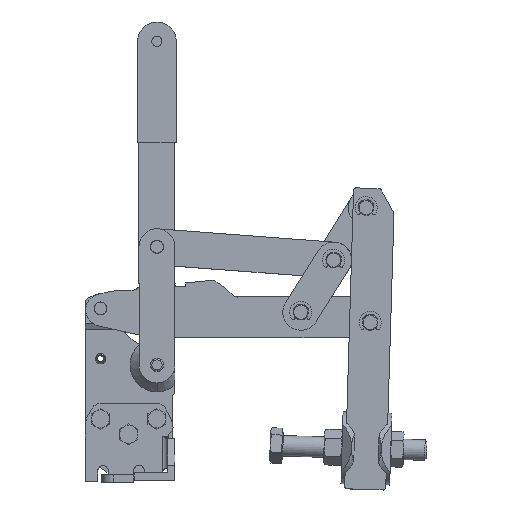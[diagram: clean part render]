
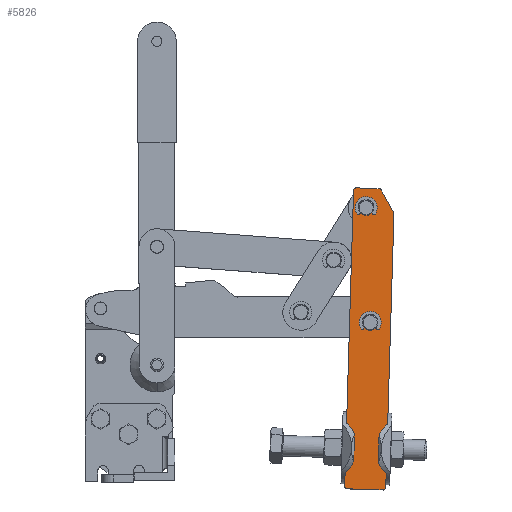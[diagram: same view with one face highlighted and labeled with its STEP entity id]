
A CAD part, top view. The second image highlights one B-rep face of the part: STEP entity #5826.
In plain terms, the highlighted planar face has unit normal (0, 0, 1).
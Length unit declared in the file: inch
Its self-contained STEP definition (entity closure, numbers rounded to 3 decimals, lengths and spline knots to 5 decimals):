
#5390=CARTESIAN_POINT('',(0.2875,0.318,0.199));
#5391=VERTEX_POINT('',#5390);
#5407=CARTESIAN_POINT('',(0.6625,0.318,0.199));
#5408=VERTEX_POINT('',#5407);
#5415=CARTESIAN_POINT('',(0.475,0.318,0.199));
#5416=DIRECTION('',(0.0,0.0,-1.0));
#5417=DIRECTION('',(-1.0,0.0,0.0));
#5418=AXIS2_PLACEMENT_3D('',#5415,#5416,#5417);
#5419=CIRCLE('',#5418,0.1875);
#5420=EDGE_CURVE('',#5391,#5408,#5419,.T.);
#5432=CARTESIAN_POINT('',(3.0775,0.5,0.199));
#5433=VERTEX_POINT('',#5432);
#5449=CARTESIAN_POINT('',(3.4525,0.5,0.199));
#5450=VERTEX_POINT('',#5449);
#5457=CARTESIAN_POINT('',(3.265,0.5,0.199));
#5458=DIRECTION('',(0.0,0.0,-1.0));
#5459=DIRECTION('',(-1.0,0.0,0.0));
#5460=AXIS2_PLACEMENT_3D('',#5457,#5458,#5459);
#5461=CIRCLE('',#5460,0.1875);
#5462=EDGE_CURVE('',#5433,#5450,#5461,.T.);
#5474=CARTESIAN_POINT('',(0.5964,0.99785,0.199));
#5475=VERTEX_POINT('',#5474);
#5491=CARTESIAN_POINT('',(0.58121,0.99156,0.199));
#5492=VERTEX_POINT('',#5491);
#5499=CARTESIAN_POINT('',(0.61271,0.937,0.199));
#5500=DIRECTION('',(0.0,0.0,-1.0));
#5501=DIRECTION('',(-0.259,0.966,0.0));
#5502=AXIS2_PLACEMENT_3D('',#5499,#5500,#5501);
#5503=CIRCLE('',#5502,0.063);
#5504=EDGE_CURVE('',#5492,#5475,#5503,.T.);
#5514=CARTESIAN_POINT('',(0.00844,0.65113,0.199));
#5515=VERTEX_POINT('',#5514);
#5524=CARTESIAN_POINT('',(0.0315,0.67419,0.199));
#5525=VERTEX_POINT('',#5524);
#5526=CARTESIAN_POINT('',(0.063,0.61963,0.199));
#5527=DIRECTION('',(0.0,0.0,-1.));
#5528=DIRECTION('',(-0.866,0.5,0.0));
#5529=AXIS2_PLACEMENT_3D('',#5526,#5527,#5528);
#5530=CIRCLE('',#5529,0.063);
#5531=EDGE_CURVE('',#5515,#5525,#5530,.T.);
#5558=CARTESIAN_POINT('',(0.01845,0.01845,0.199));
#5559=VERTEX_POINT('',#5558);
#5575=CARTESIAN_POINT('',(0.063,0.,0.199));
#5576=VERTEX_POINT('',#5575);
#5583=CARTESIAN_POINT('',(0.063,0.063,0.199));
#5584=DIRECTION('',(0.0,0.0,-1.));
#5585=DIRECTION('',(-0.707,-0.707,0.0));
#5586=AXIS2_PLACEMENT_3D('',#5583,#5584,#5585);
#5587=CIRCLE('',#5586,0.063);
#5588=EDGE_CURVE('',#5576,#5559,#5587,.T.);
#5600=CARTESIAN_POINT('',(7.30955,0.98155,0.199));
#5601=VERTEX_POINT('',#5600);
#5617=CARTESIAN_POINT('',(7.265,1.,0.199));
#5618=VERTEX_POINT('',#5617);
#5625=CARTESIAN_POINT('',(7.265,0.937,0.199));
#5626=DIRECTION('',(0.0,0.0,-1.));
#5627=DIRECTION('',(0.707,0.707,0.0));
#5628=AXIS2_PLACEMENT_3D('',#5625,#5626,#5627);
#5629=CIRCLE('',#5628,0.063);
#5630=EDGE_CURVE('',#5618,#5601,#5629,.T.);
#5642=CARTESIAN_POINT('',(7.30955,0.01845,0.199));
#5643=VERTEX_POINT('',#5642);
#5659=CARTESIAN_POINT('',(7.328,0.063,0.199));
#5660=VERTEX_POINT('',#5659);
#5667=CARTESIAN_POINT('',(7.265,0.063,0.199));
#5668=DIRECTION('',(0.0,0.0,-1.0));
#5669=DIRECTION('',(0.707,-0.707,0.0));
#5670=AXIS2_PLACEMENT_3D('',#5667,#5668,#5669);
#5671=CIRCLE('',#5670,0.063);
#5672=EDGE_CURVE('',#5660,#5643,#5671,.T.);
#5683=CARTESIAN_POINT('',(7.265,0.,0.199));
#5684=VERTEX_POINT('',#5683);
#5685=CARTESIAN_POINT('',(7.265,0.063,0.199));
#5686=DIRECTION('',(0.0,0.0,-1.0));
#5687=DIRECTION('',(0.707,-0.707,0.0));
#5688=AXIS2_PLACEMENT_3D('',#5685,#5686,#5687);
#5689=CIRCLE('',#5688,0.063);
#5690=EDGE_CURVE('',#5643,#5684,#5689,.T.);
#5716=CARTESIAN_POINT('',(7.265,0.,0.199));
#5717=DIRECTION('',(-1.0,0.0,0.0));
#5718=VECTOR('',#5717,7.202);
#5719=LINE('',#5716,#5718);
#5720=EDGE_CURVE('',#5684,#5576,#5719,.T.);
#5732=CARTESIAN_POINT('',(3.664,0.5,0.199));
#5733=DIRECTION('',(0.0,0.0,1.0));
#5734=DIRECTION('',(1.0,0.0,0.0));
#5735=AXIS2_PLACEMENT_3D('',#5732,#5733,#5734);
#5736=PLANE('',#5735);
#5737=ORIENTED_EDGE('',*,*,#5672,.F.);
#5738=CARTESIAN_POINT('',(7.328,0.937,0.199));
#5739=VERTEX_POINT('',#5738);
#5740=CARTESIAN_POINT('',(7.328,0.937,0.199));
#5741=DIRECTION('',(0.0,-1.0,0.0));
#5742=VECTOR('',#5741,0.874);
#5743=LINE('',#5740,#5742);
#5744=EDGE_CURVE('',#5739,#5660,#5743,.T.);
#5745=ORIENTED_EDGE('',*,*,#5744,.F.);
#5746=CARTESIAN_POINT('',(7.265,0.937,0.199));
#5747=DIRECTION('',(0.0,0.0,-1.));
#5748=DIRECTION('',(0.707,0.707,0.0));
#5749=AXIS2_PLACEMENT_3D('',#5746,#5747,#5748);
#5750=CIRCLE('',#5749,0.063);
#5751=EDGE_CURVE('',#5601,#5739,#5750,.T.);
#5752=ORIENTED_EDGE('',*,*,#5751,.F.);
#5753=ORIENTED_EDGE('',*,*,#5630,.F.);
#5754=CARTESIAN_POINT('',(0.61271,1.,0.199));
#5755=VERTEX_POINT('',#5754);
#5756=CARTESIAN_POINT('',(0.61271,1.,0.199));
#5757=DIRECTION('',(1.0,0.0,0.0));
#5758=VECTOR('',#5757,6.65229);
#5759=LINE('',#5756,#5758);
#5760=EDGE_CURVE('',#5755,#5618,#5759,.T.);
#5761=ORIENTED_EDGE('',*,*,#5760,.F.);
#5762=CARTESIAN_POINT('',(0.61271,0.937,0.199));
#5763=DIRECTION('',(0.0,0.0,-1.0));
#5764=DIRECTION('',(-0.259,0.966,0.0));
#5765=AXIS2_PLACEMENT_3D('',#5762,#5763,#5764);
#5766=CIRCLE('',#5765,0.063);
#5767=EDGE_CURVE('',#5475,#5755,#5766,.T.);
#5768=ORIENTED_EDGE('',*,*,#5767,.F.);
#5769=ORIENTED_EDGE('',*,*,#5504,.F.);
#5770=CARTESIAN_POINT('',(0.58121,0.99156,0.199));
#5771=DIRECTION('',(-0.866,-0.5,0.0));
#5772=VECTOR('',#5771,0.63475);
#5773=LINE('',#5770,#5772);
#5774=EDGE_CURVE('',#5492,#5525,#5773,.T.);
#5775=ORIENTED_EDGE('',*,*,#5774,.T.);
#5776=ORIENTED_EDGE('',*,*,#5531,.F.);
#5777=CARTESIAN_POINT('',(0.,0.61963,0.199));
#5778=VERTEX_POINT('',#5777);
#5779=CARTESIAN_POINT('',(0.063,0.61963,0.199));
#5780=DIRECTION('',(0.0,0.0,-1.));
#5781=DIRECTION('',(-0.866,0.5,0.0));
#5782=AXIS2_PLACEMENT_3D('',#5779,#5780,#5781);
#5783=CIRCLE('',#5782,0.063);
#5784=EDGE_CURVE('',#5778,#5515,#5783,.T.);
#5785=ORIENTED_EDGE('',*,*,#5784,.F.);
#5786=CARTESIAN_POINT('',(0.,0.063,0.199));
#5787=VERTEX_POINT('',#5786);
#5788=CARTESIAN_POINT('',(0.,0.063,0.199));
#5789=DIRECTION('',(0.0,1.0,0.0));
#5790=VECTOR('',#5789,0.55663);
#5791=LINE('',#5788,#5790);
#5792=EDGE_CURVE('',#5787,#5778,#5791,.T.);
#5793=ORIENTED_EDGE('',*,*,#5792,.F.);
#5794=CARTESIAN_POINT('',(0.063,0.063,0.199));
#5795=DIRECTION('',(0.0,0.0,-1.));
#5796=DIRECTION('',(-0.707,-0.707,0.0));
#5797=AXIS2_PLACEMENT_3D('',#5794,#5795,#5796);
#5798=CIRCLE('',#5797,0.063);
#5799=EDGE_CURVE('',#5559,#5787,#5798,.T.);
#5800=ORIENTED_EDGE('',*,*,#5799,.F.);
#5801=ORIENTED_EDGE('',*,*,#5588,.F.);
#5802=ORIENTED_EDGE('',*,*,#5720,.F.);
#5803=ORIENTED_EDGE('',*,*,#5690,.F.);
#5804=EDGE_LOOP('',(#5737,#5745,#5752,#5753,#5761,#5768,#5769,#5775,#5776,#5785,#5793,#5800,#5801,#5802,#5803));
#5805=FACE_OUTER_BOUND('',#5804,.T.);
#5806=CARTESIAN_POINT('',(0.475,0.318,0.199));
#5807=DIRECTION('',(0.0,0.0,-1.0));
#5808=DIRECTION('',(-1.0,0.0,0.0));
#5809=AXIS2_PLACEMENT_3D('',#5806,#5807,#5808);
#5810=CIRCLE('',#5809,0.1875);
#5811=EDGE_CURVE('',#5408,#5391,#5810,.T.);
#5812=ORIENTED_EDGE('',*,*,#5811,.T.);
#5813=ORIENTED_EDGE('',*,*,#5420,.T.);
#5814=EDGE_LOOP('',(#5812,#5813));
#5815=FACE_BOUND('',#5814,.T.);
#5816=CARTESIAN_POINT('',(3.265,0.5,0.199));
#5817=DIRECTION('',(0.0,0.0,-1.0));
#5818=DIRECTION('',(-1.0,0.0,0.0));
#5819=AXIS2_PLACEMENT_3D('',#5816,#5817,#5818);
#5820=CIRCLE('',#5819,0.1875);
#5821=EDGE_CURVE('',#5450,#5433,#5820,.T.);
#5822=ORIENTED_EDGE('',*,*,#5821,.T.);
#5823=ORIENTED_EDGE('',*,*,#5462,.T.);
#5824=EDGE_LOOP('',(#5822,#5823));
#5825=FACE_BOUND('',#5824,.T.);
#5826=ADVANCED_FACE('',(#5805,#5815,#5825),#5736,.T.);
